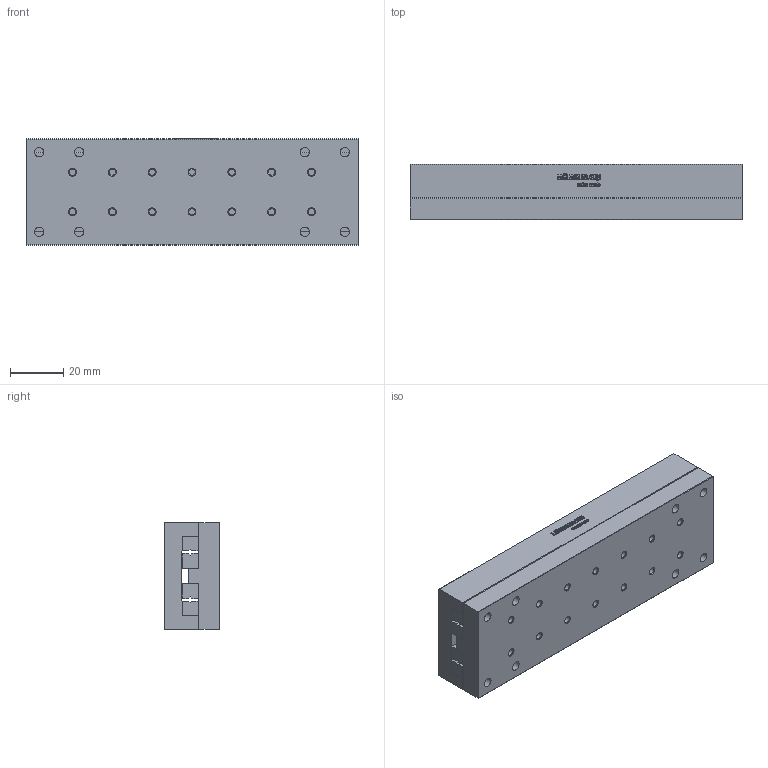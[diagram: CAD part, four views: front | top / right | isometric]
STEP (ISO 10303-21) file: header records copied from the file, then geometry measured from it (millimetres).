
FILE_DESCRIPTION(/* description */ ('STEP AP214'),/* implementation_level */ '2;1');
FILE_NAME(/* name */ 'NKL 2-125(0)',/* time_stamp */ '2025-04-23T07:58:09+02:00',/* author */ ('License CC BY-ND 4.0'),/* organization */ ('CADENAS'),/* preprocessor_version */ 'ST-DEVELOPER v19.3',/* originating_system */ 'PARTsolutions',/* authorisation */ ' ');
FILE_SCHEMA (('AUTOMOTIVE_DESIGN {1 0 10303 214 3 1 1}'));
Length unit declared in the file: millimetre
Products named in the file (3): NKL 2-125(0); NKL 2-125_1; NKL 2-125_2
Assembly tree (2 placements, depth 2):
  NKL 2-125(0)
    NKL 2-125_1
    NKL 2-125_2
Bounding box: 125 x 21 x 40 mm (x, y, z)
Volume: 98499 mm3; surface area: 37842 mm2
Topology: 2 solids, 2 shells, 711 faces, 1962 edges, 1276 vertices
Faces by surface type: cylinder 336, plane 319, cone 56
Full cylindrical faces by diameter (mm): 2.459 x28, 3.5 x8, 6 x8
Entity records: 22419 total; most frequent: DIRECTION 4018, CARTESIAN_POINT 3908, ORIENTED_EDGE 3696, EDGE_CURVE 1848, AXIS2_PLACEMENT_3D 1484, VERTEX_POINT 1262, LINE 1050, VECTOR 1050
